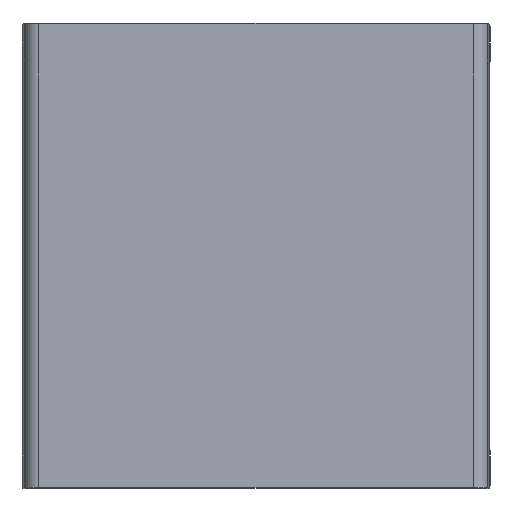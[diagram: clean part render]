
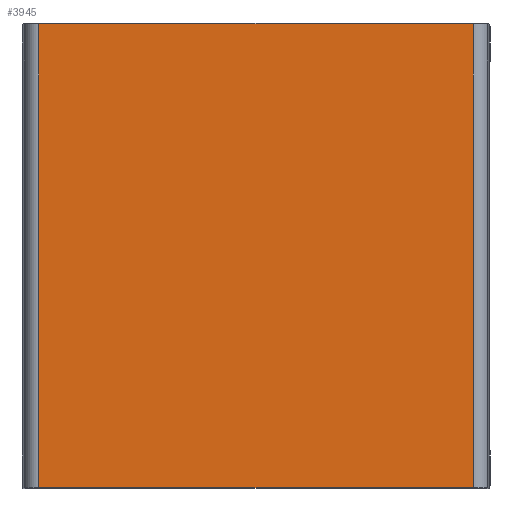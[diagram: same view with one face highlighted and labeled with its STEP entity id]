
A CAD part, top view. The second image highlights one B-rep face of the part: STEP entity #3945.
In plain terms, the highlighted planar face has unit normal (0, 0, 1).
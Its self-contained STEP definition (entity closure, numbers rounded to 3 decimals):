
#3535=CARTESIAN_POINT('',(-373.438,399.,0.0));
#3536=VERTEX_POINT('',#3535);
#3561=CARTESIAN_POINT('',(373.438,399.,0.0));
#3562=VERTEX_POINT('',#3561);
#3563=CARTESIAN_POINT('',(-373.438,399.,0.0));
#3564=DIRECTION('',(1.0,0.0,0.0));
#3565=VECTOR('',#3564,746.876);
#3566=LINE('',#3563,#3565);
#3567=EDGE_CURVE('',#3536,#3562,#3566,.T.);
#3744=CARTESIAN_POINT('',(373.438,-399.,0.0));
#3745=VERTEX_POINT('',#3744);
#3776=CARTESIAN_POINT('',(-373.438,-399.,0.0));
#3777=VERTEX_POINT('',#3776);
#3778=CARTESIAN_POINT('',(373.438,-399.,0.0));
#3779=DIRECTION('',(-1.0,0.0,0.0));
#3780=VECTOR('',#3779,746.876);
#3781=LINE('',#3778,#3780);
#3782=EDGE_CURVE('',#3745,#3777,#3781,.T.);
#3918=CARTESIAN_POINT('',(373.438,-399.0,0.0));
#3919=DIRECTION('',(0.0,1.0,0.0));
#3920=VECTOR('',#3919,798.);
#3921=LINE('',#3918,#3920);
#3922=EDGE_CURVE('',#3745,#3562,#3921,.T.);
#3929=CARTESIAN_POINT('',(0.,0.,0.0));
#3930=DIRECTION('',(0.0,0.0,1.0));
#3931=DIRECTION('',(1.0,0.0,0.0));
#3932=AXIS2_PLACEMENT_3D('',#3929,#3930,#3931);
#3933=PLANE('',#3932);
#3934=ORIENTED_EDGE('',*,*,#3567,.F.);
#3935=CARTESIAN_POINT('',(-373.438,399.,0.0));
#3936=DIRECTION('',(0.0,-1.0,0.0));
#3937=VECTOR('',#3936,798.);
#3938=LINE('',#3935,#3937);
#3939=EDGE_CURVE('',#3536,#3777,#3938,.T.);
#3940=ORIENTED_EDGE('',*,*,#3939,.T.);
#3941=ORIENTED_EDGE('',*,*,#3782,.F.);
#3942=ORIENTED_EDGE('',*,*,#3922,.T.);
#3943=EDGE_LOOP('',(#3934,#3940,#3941,#3942));
#3944=FACE_OUTER_BOUND('',#3943,.T.);
#3945=ADVANCED_FACE('',(#3944),#3933,.T.);
